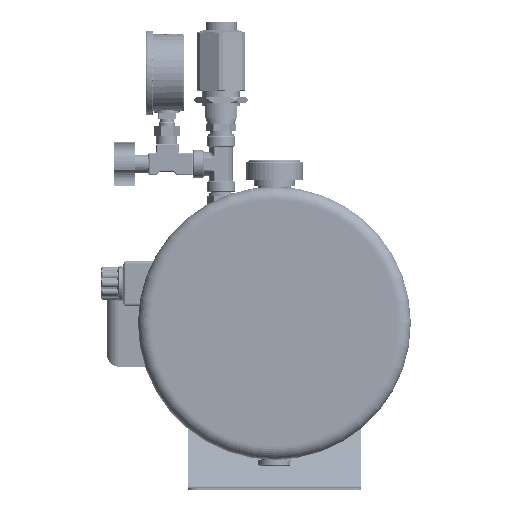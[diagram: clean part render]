
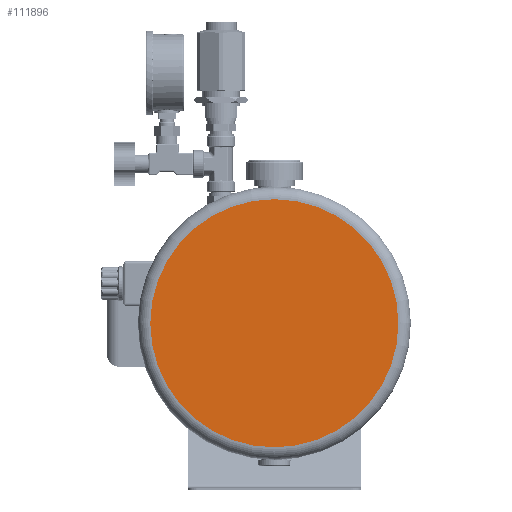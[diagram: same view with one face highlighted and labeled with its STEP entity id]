
A CAD part, left-side view. The second image highlights one B-rep face of the part: STEP entity #111896.
In plain terms, the highlighted planar face has unit normal (-1, 0, 0).
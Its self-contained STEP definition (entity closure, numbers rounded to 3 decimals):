
#3163=PLANE('',#122019);
#10873=FACE_OUTER_BOUND('',#17370,.T.);
#17370=EDGE_LOOP('',(#87693,#87694));
#26492=CIRCLE('',#121914,100.);
#26493=CIRCLE('',#121915,100.);
#47122=VERTEX_POINT('',#363953);
#47123=VERTEX_POINT('',#363954);
#61318=EDGE_CURVE('',#47122,#47123,#26492,.T.);
#61319=EDGE_CURVE('',#47123,#47122,#26493,.T.);
#87693=ORIENTED_EDGE('',*,*,#61318,.T.);
#87694=ORIENTED_EDGE('',*,*,#61319,.T.);
#111896=ADVANCED_FACE('',(#10873),#3163,.T.);
#121914=AXIS2_PLACEMENT_3D('',#363955,#145268,#145269);
#121915=AXIS2_PLACEMENT_3D('',#363956,#145270,#145271);
#122019=AXIS2_PLACEMENT_3D('',#364191,#145531,#145532);
#145268=DIRECTION('center_axis',(-1.,0.,0.));
#145269=DIRECTION('ref_axis',(0.,1.,0.));
#145270=DIRECTION('center_axis',(-1.,0.,0.));
#145271=DIRECTION('ref_axis',(0.,1.,0.));
#145531=DIRECTION('center_axis',(-1.,0.,0.));
#145532=DIRECTION('ref_axis',(0.,1.,0.));
#363953=CARTESIAN_POINT('',(-437.,98.423,0.));
#363954=CARTESIAN_POINT('',(-437.,-101.577,0.));
#363955=CARTESIAN_POINT('Origin',(-437.,-1.577,0.));
#363956=CARTESIAN_POINT('Origin',(-437.,-1.577,0.));
#364191=CARTESIAN_POINT('Origin',(-437.,-1.577,-110.));
